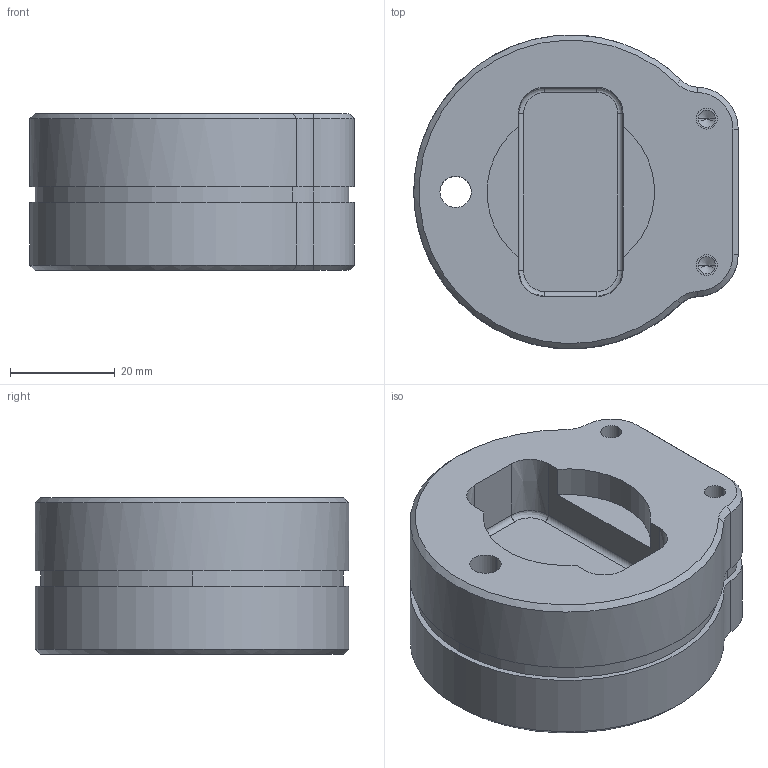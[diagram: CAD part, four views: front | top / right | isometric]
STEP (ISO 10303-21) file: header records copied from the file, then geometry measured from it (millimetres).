
FILE_DESCRIPTION((' '),'2;1');
FILE_NAME( 'egm.STEP', '2023-01-30T13:55:45', (' '), ('--- Datakit www.datakit.com---'), ' Datakit CrossCadWare V2022.3 Jun 16 2022', 'GO2cam V6.10', ' ');
FILE_SCHEMA(('AUTOMOTIVE_DESIGN { 1 0 10303 214 1 1 1 1 }'));
Length unit declared in the file: millimetre
Products named in the file (1): part
Bounding box: 62 x 59.93 x 30 mm (x, y, z)
Volume: 76082.5 mm3; surface area: 14548.6 mm2
Topology: 1 solids, 1 shells, 72 faces, 171 edges, 104 vertices
Faces by surface type: cylinder 24, bspline 22, plane 18, cone 8
Entity records: 3876 total; most frequent: CARTESIAN_POINT 2326, ORIENTED_EDGE 334, DIRECTION 295, EDGE_CURVE 167, AXIS2_PLACEMENT_3D 111, VERTEX_POINT 104, EDGE_LOOP 81, VECTOR 73
